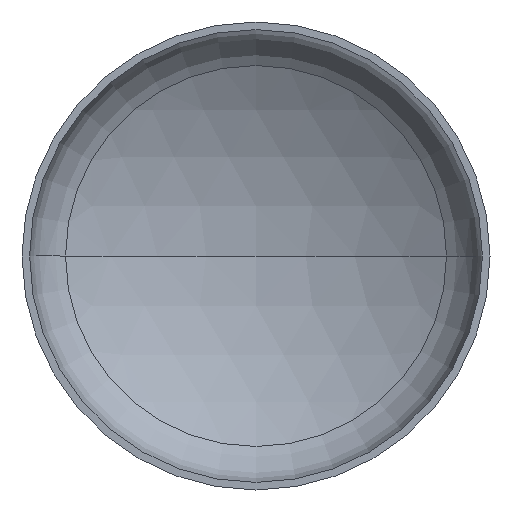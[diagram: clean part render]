
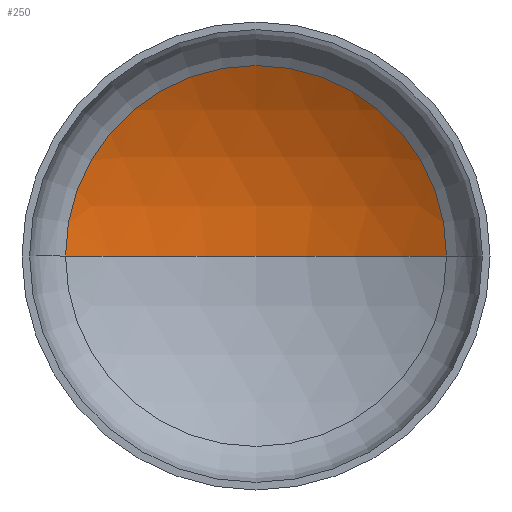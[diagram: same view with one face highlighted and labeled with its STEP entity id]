
A CAD part, front view. The second image highlights one B-rep face of the part: STEP entity #250.
In plain terms, the highlighted spherical face has radius 640 mm.
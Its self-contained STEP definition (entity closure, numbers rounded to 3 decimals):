
#3 = AXIS2_PLACEMENT_3D ( 'NONE', #394, #395, #239 ) ;
#9 = AXIS2_PLACEMENT_3D ( 'NONE', #350, #224, #271 ) ;
#21 = ORIENTED_EDGE ( 'NONE', *, *, #329, .T. ) ;
#23 = VERTEX_POINT ( 'NONE', #361 ) ;
#35 = VERTEX_POINT ( 'NONE', #231 ) ;
#47 = ORIENTED_EDGE ( 'NONE', *, *, #376, .F. ) ;
#52 = AXIS2_PLACEMENT_3D ( 'NONE', #176, #191, #311 ) ;
#68 = CIRCLE ( 'NONE', #393, 640. ) ;
#94 = CIRCLE ( 'NONE', #3, 640. ) ;
#106 = CIRCLE ( 'NONE', #9, 325.592 ) ;
#108 = VERTEX_POINT ( 'NONE', #294 ) ;
#113 = CARTESIAN_POINT ( 'NONE',  ( 0., -403.375, 0. ) ) ;
#154 = SPHERICAL_SURFACE ( 'NONE', #52, 640. ) ;
#176 = CARTESIAN_POINT ( 'NONE',  ( 0., -403.375, 0. ) ) ;
#181 = DIRECTION ( 'NONE',  ( 1., 0., 0. ) ) ;
#191 = DIRECTION ( 'NONE',  ( 0., 0., -1. ) ) ;
#206 = FACE_OUTER_BOUND ( 'NONE', #333, .T. ) ;
#224 = DIRECTION ( 'NONE',  ( 0., -1., 0. ) ) ;
#231 = CARTESIAN_POINT ( 'NONE',  ( -325.592, 147.615, 0. ) ) ;
#239 = DIRECTION ( 'NONE',  ( -1., 0., 0. ) ) ;
#250 = ADVANCED_FACE ( 'NONE', ( #206 ), #154, .F. ) ;
#271 = DIRECTION ( 'NONE',  ( 1., 0., 0. ) ) ;
#294 = CARTESIAN_POINT ( 'NONE',  ( 0., 236.625, 0. ) ) ;
#300 = ORIENTED_EDGE ( 'NONE', *, *, #360, .T. ) ;
#311 = DIRECTION ( 'NONE',  ( -1., 0., 0. ) ) ;
#329 = EDGE_CURVE ( 'NONE', #23, #35, #106, .T. ) ;
#333 = EDGE_LOOP ( 'NONE', ( #47, #300, #21 ) ) ;
#347 = DIRECTION ( 'NONE',  ( 0., 0., 1. ) ) ;
#350 = CARTESIAN_POINT ( 'NONE',  ( 0., 147.615, 0. ) ) ;
#360 = EDGE_CURVE ( 'NONE', #108, #23, #94, .T. ) ;
#361 = CARTESIAN_POINT ( 'NONE',  ( 325.592, 147.615, 0. ) ) ;
#376 = EDGE_CURVE ( 'NONE', #108, #35, #68, .T. ) ;
#393 = AXIS2_PLACEMENT_3D ( 'NONE', #113, #347, #181 ) ;
#394 = CARTESIAN_POINT ( 'NONE',  ( 0., -403.375, 0. ) ) ;
#395 = DIRECTION ( 'NONE',  ( 0., 0., -1. ) ) ;
